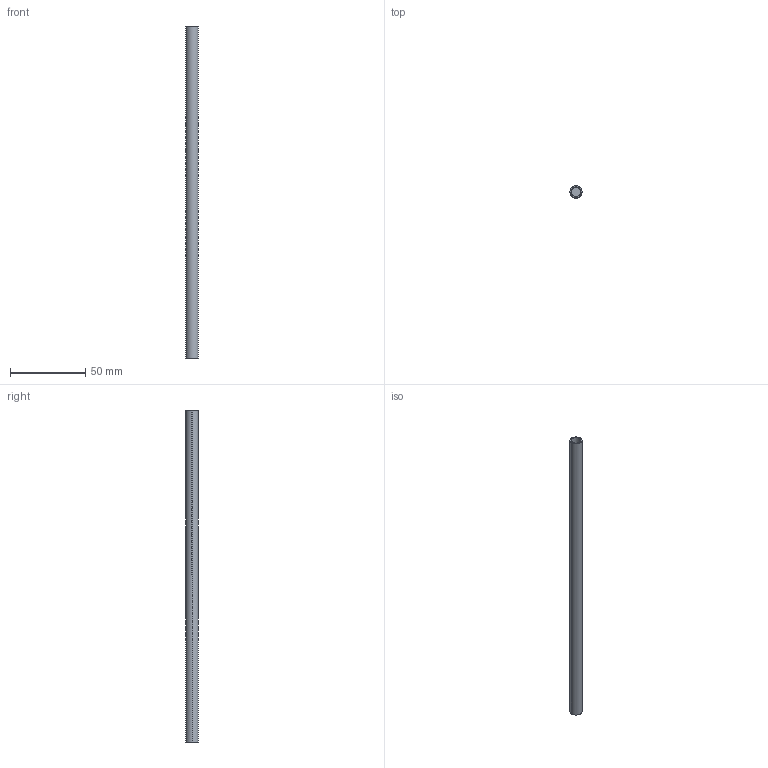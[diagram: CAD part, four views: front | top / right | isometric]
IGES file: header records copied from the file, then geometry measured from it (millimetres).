
Start section: SolidWorks IGES file using analytic representation for surfaces
Global section: file name: C:\Users\gorka\OneDrive\Desktop\SP STL\rod_iges.IGS; native system: SolidWorks 2021; preprocessor: SolidWorks 2021; author: gorka; date: 220628.194634; units: millimetre
Bounding box: 8 x 8 x 220 mm (x, y, z)
Surface area: 5885 mm2 (no closed solid volume)
Topology: 0 solids, 0 shells, 10 faces, 216 edges, 216 vertices
Faces by surface type: revolution 6, bspline 4
